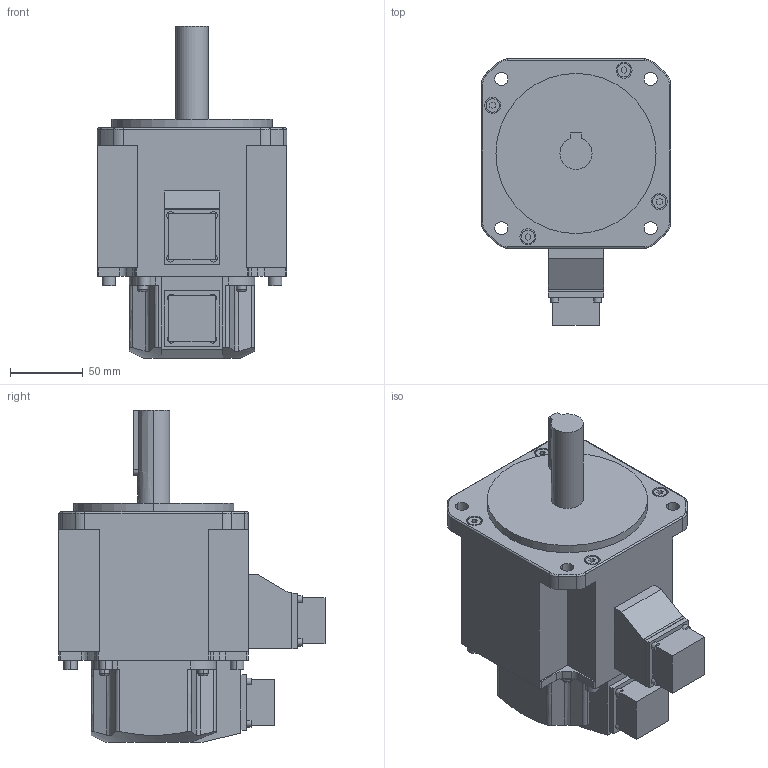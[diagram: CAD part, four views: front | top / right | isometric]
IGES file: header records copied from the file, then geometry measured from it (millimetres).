
Start section:  PTC IGES file: rsmh_05ask3.igs
Global section: file name: rsmh_05ask3.igs; native system: Pro/ENGINEER by Parametric Technology Corporation; preprocessor: 2004440; author: Administrator; organization: Unknown; date: 070829.193034; units: millimetre
Bounding box: 130 x 182.7 x 228 mm (x, y, z)
Volume: 2026627.1 mm3; surface area: 125530.9 mm2
Topology: 1 solids, 1 shells, 290 faces, 744 edges, 488 vertices
Faces by surface type: bspline 164, revolution 126
